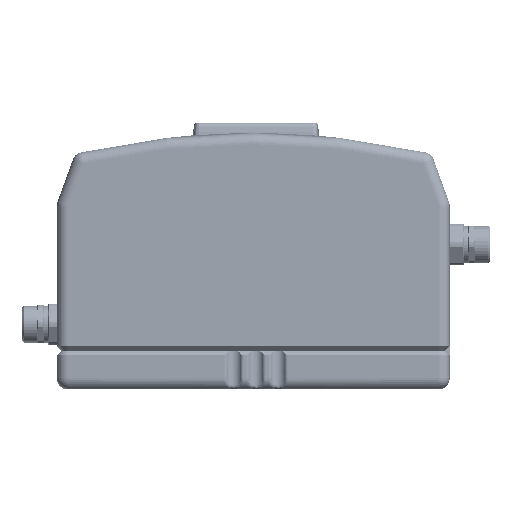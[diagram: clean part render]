
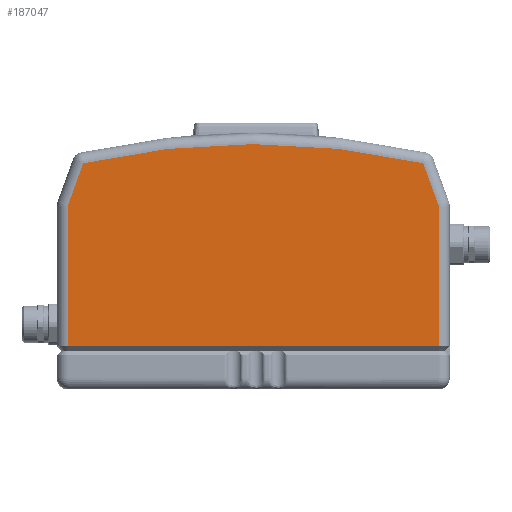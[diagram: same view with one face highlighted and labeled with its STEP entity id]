
A CAD part, left-side view. The second image highlights one B-rep face of the part: STEP entity #187047.
In plain terms, the highlighted planar face has unit normal (-1, 0, 0) as drawn and (1, 0, 0) by its records, which use the part's own axes.
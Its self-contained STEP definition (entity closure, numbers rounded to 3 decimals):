
#21448=LINE('',#311960,#34167);
#21485=LINE('',#312479,#34204);
#21488=LINE('',#312484,#34207);
#21492=LINE('',#312491,#34211);
#21496=LINE('',#312500,#34215);
#34167=VECTOR('',#224022,10.);
#34204=VECTOR('',#224279,10.);
#34207=VECTOR('',#224286,10.);
#34211=VECTOR('',#224296,10.);
#34215=VECTOR('',#224310,10.);
#45853=PLANE('',#200354);
#50637=FACE_OUTER_BOUND('',#61932,.T.);
#61932=EDGE_LOOP('',(#135647,#135648,#135649,#135650,#135651,#135652));
#73158=CIRCLE('',#200336,690.);
#86124=VERTEX_POINT('',#311954);
#86125=VERTEX_POINT('',#311958);
#86157=VERTEX_POINT('',#312449);
#86160=VERTEX_POINT('',#312459);
#86163=VERTEX_POINT('',#312467);
#86165=VERTEX_POINT('',#312472);
#104365=EDGE_CURVE('',#86124,#86125,#21448,.T.);
#104459=EDGE_CURVE('',#86165,#86163,#73158,.T.);
#104460=EDGE_CURVE('',#86160,#86165,#21485,.T.);
#104463=EDGE_CURVE('',#86163,#86157,#21488,.T.);
#104467=EDGE_CURVE('',#86125,#86160,#21492,.T.);
#104472=EDGE_CURVE('',#86157,#86124,#21496,.T.);
#135647=ORIENTED_EDGE('',*,*,#104365,.F.);
#135648=ORIENTED_EDGE('',*,*,#104472,.F.);
#135649=ORIENTED_EDGE('',*,*,#104463,.F.);
#135650=ORIENTED_EDGE('',*,*,#104459,.F.);
#135651=ORIENTED_EDGE('',*,*,#104460,.F.);
#135652=ORIENTED_EDGE('',*,*,#104467,.F.);
#187047=ADVANCED_FACE('',(#50637),#45853,.T.);
#200336=AXIS2_PLACEMENT_3D('',#312477,#224275,#224276);
#200354=AXIS2_PLACEMENT_3D('',#312511,#224327,#224328);
#224022=DIRECTION('',(0.,-1.,0.));
#224275=DIRECTION('center_axis',(-1.,0.,0.));
#224276=DIRECTION('ref_axis',(0.,0.,
1.));
#224279=DIRECTION('',(0.,0.342,0.94));
#224286=DIRECTION('',(0.,0.342,-0.94));
#224296=DIRECTION('',(0.,0.,1.));
#224310=DIRECTION('',(0.,0.,-1.));
#224327=DIRECTION('center_axis',(1.,0.,0.));
#224328=DIRECTION('ref_axis',(0.,0.,
-1.));
#311954=CARTESIAN_POINT('',(210.,165.,4.));
#311958=CARTESIAN_POINT('',(210.,-170.,4.));
#311960=CARTESIAN_POINT('',(210.,86.25,4.));
#312449=CARTESIAN_POINT('',(210.,165.,131.237));
#312459=CARTESIAN_POINT('',(210.,-170.,131.237));
#312467=CARTESIAN_POINT('',(210.,151.078,169.487));
#312472=CARTESIAN_POINT('',(210.,-156.078,169.487));
#312477=CARTESIAN_POINT('Origin',(210.,-2.5,-503.205));
#312479=CARTESIAN_POINT('',(210.,-163.023,150.406));
#312484=CARTESIAN_POINT('',(210.,186.976,70.859));
#312491=CARTESIAN_POINT('',(210.,-170.,0.));
#312500=CARTESIAN_POINT('',(210.,165.,0.));
#312511=CARTESIAN_POINT('Origin',(210.,175.,0.));
